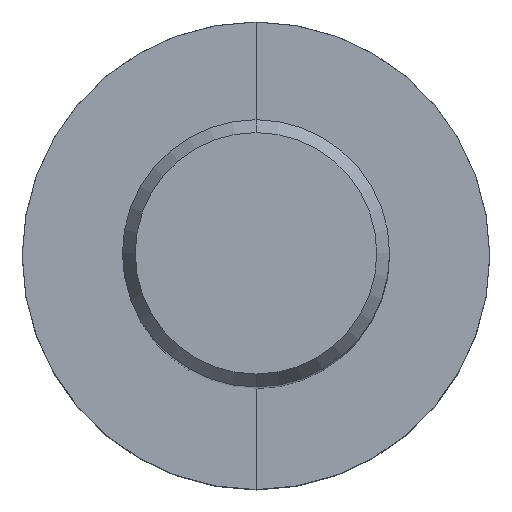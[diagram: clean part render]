
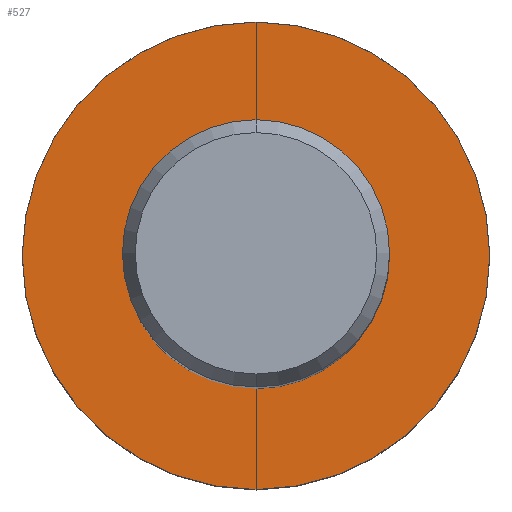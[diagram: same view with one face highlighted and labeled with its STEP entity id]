
A CAD part, top view. The second image highlights one B-rep face of the part: STEP entity #527.
In plain terms, the highlighted planar face has unit normal (0, 0, 1).
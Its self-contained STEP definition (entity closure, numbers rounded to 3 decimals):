
#245=EDGE_CURVE('',#529,#445,#634,.T.);
#325=EDGE_CURVE('',#497,#567,#722,.T.);
#343=EDGE_CURVE('',#445,#529,#742,.T.);
#403=EDGE_CURVE('',#567,#497,#811,.T.);
#445=VERTEX_POINT('',#860);
#497=VERTEX_POINT('',#917);
#527=ADVANCED_FACE('',(#949,#950),#951,.T.);
#529=VERTEX_POINT('',#953);
#567=VERTEX_POINT('',#993);
#634=CIRCLE('',#1098,5.);
#722=CIRCLE('',#1265,10.495);
#742=CIRCLE('',#1317,5.);
#811=CIRCLE('',#1432,10.495);
#860=CARTESIAN_POINT('',(0.0,5.,-65.0));
#917=CARTESIAN_POINT('',(0.0,10.495,-65.0));
#949=FACE_OUTER_BOUND('',#1726,.T.);
#950=FACE_BOUND('',#1727,.T.);
#951=PLANE('',#1728);
#953=CARTESIAN_POINT('',(0.,-5.,-65.0));
#993=CARTESIAN_POINT('',(0.,-10.495,-65.0));
#1098=AXIS2_PLACEMENT_3D('',#1873,#1874,#1875);
#1265=AXIS2_PLACEMENT_3D('',#1980,#1981,#1982);
#1317=AXIS2_PLACEMENT_3D('',#2008,#2009,#2010);
#1432=AXIS2_PLACEMENT_3D('',#2107,#2108,#2109);
#1726=EDGE_LOOP('',(#2261,#2262));
#1727=EDGE_LOOP('',(#2263,#2264));
#1728=AXIS2_PLACEMENT_3D('',#2265,#2266,#2267);
#1873=CARTESIAN_POINT('',(0.0,0.0,-65.0));
#1874=DIRECTION('',(0.0,0.0,-1.0));
#1875=DIRECTION('',(0.0,1.0,0.0));
#1980=CARTESIAN_POINT('',(0.0,0.0,-65.0));
#1981=DIRECTION('',(0.0,0.0,-1.0));
#1982=DIRECTION('',(0.0,1.0,0.0));
#2008=CARTESIAN_POINT('',(0.0,0.0,-65.0));
#2009=DIRECTION('',(0.0,0.0,-1.0));
#2010=DIRECTION('',(0.0,1.0,0.0));
#2107=CARTESIAN_POINT('',(0.0,0.0,-65.0));
#2108=DIRECTION('',(0.0,0.0,-1.0));
#2109=DIRECTION('',(0.0,1.0,0.0));
#2261=ORIENTED_EDGE('',*,*,#325,.F.);
#2262=ORIENTED_EDGE('',*,*,#403,.F.);
#2263=ORIENTED_EDGE('',*,*,#343,.T.);
#2264=ORIENTED_EDGE('',*,*,#245,.T.);
#2265=CARTESIAN_POINT('',(0.0,7.747,-65.0));
#2266=DIRECTION('',(-0.0,0.0,1.0));
#2267=DIRECTION('',(0.0,-1.0,0.0));
